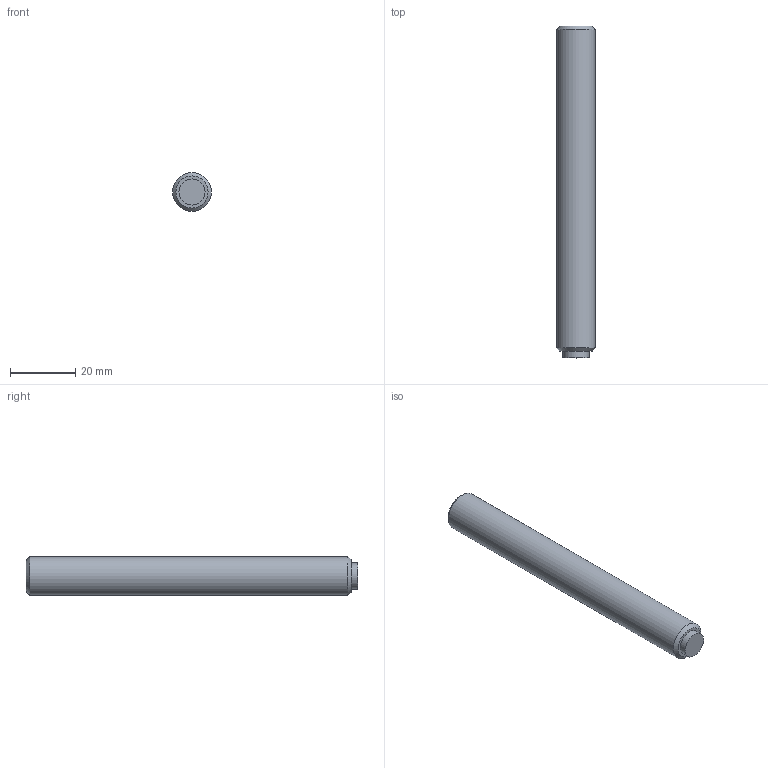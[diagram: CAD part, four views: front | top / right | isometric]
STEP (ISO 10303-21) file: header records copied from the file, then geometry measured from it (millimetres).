
FILE_DESCRIPTION( ( 'STEP AP203' ), '1' );
FILE_NAME( 'C:/Temp/Ganter_Step_05_03_2020/data/3_2/gn913_3/Grub screw GN 913.3-M12-100-KU.stp', '2020-03-13T05:35:42', ( 'License CC BY-ND 4.0' ), ( 'CADENAS' ), ' ', 'PARTsolutions', ' ' );
FILE_SCHEMA( ( 'CONFIG_CONTROL_DESIGN' ) );
Length unit declared in the file: millimetre
Products named in the file (1): _Grub screw GN 913.3-M12-100-KU
Bounding box: 12 x 102.1 x 12 mm (x, y, z)
Volume: 11125 mm3; surface area: 4164.7 mm2
Topology: 1 solids, 1 shells, 14 faces, 28 edges, 18 vertices
Faces by surface type: plane 10, cylinder 2, cone 2
Full cylindrical faces by diameter (mm): 8 x1, 12 x1
Entity records: 386 total; most frequent: DIRECTION 60, CARTESIAN_POINT 57, ORIENTED_EDGE 48, EDGE_CURVE 24, AXIS2_PLACEMENT_3D 21, EDGE_LOOP 20, VERTEX_POINT 18, LINE 18
